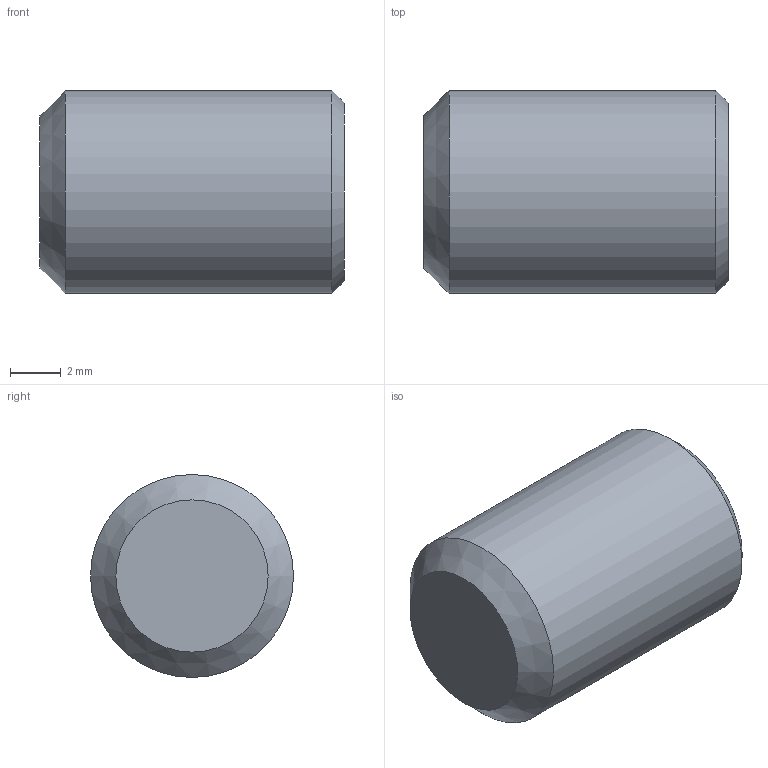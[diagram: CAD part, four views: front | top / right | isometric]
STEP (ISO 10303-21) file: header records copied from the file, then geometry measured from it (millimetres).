
FILE_DESCRIPTION(/* description */ ('STOP SCREW'),/* implementation_level */ '2;1');
FILE_NAME(/* name */ '\\carryline.intra\privat\users\mathias\Desktop\Tillfälliga filer\100-7030.stp',/* time_stamp */ '2018-11-20T11:28:32+01:00',/* author */ ('mikael'),/* organization */ (''),/* preprocessor_version */ 'ST-DEVELOPER v17',/* originating_system */ 'Autodesk Inventor 2018',/* authorisation */ '');
FILE_SCHEMA (('AUTOMOTIVE_DESIGN { 1 0 10303 214 3 1 1 }'));
Length unit declared in the file: millimetre
Products named in the file (1): 100-7030
Bounding box: 12 x 8 x 8 mm (x, y, z)
Volume: 533.2 mm3; surface area: 433.8 mm2
Topology: 1 solids, 1 shells, 12 faces, 25 edges, 16 vertices
Faces by surface type: plane 9, cone 2, cylinder 1
Full cylindrical faces by diameter (mm): 8 x1
Entity records: 356 total; most frequent: DIRECTION 55, CARTESIAN_POINT 54, ORIENTED_EDGE 50, EDGE_CURVE 25, LINE 21, VECTOR 21, AXIS2_PLACEMENT_3D 17, VERTEX_POINT 16
